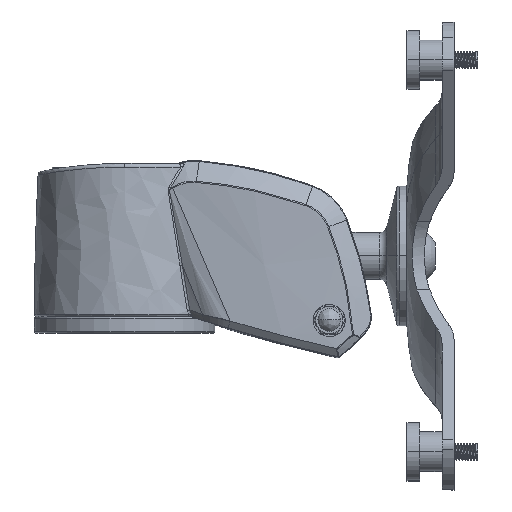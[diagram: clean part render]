
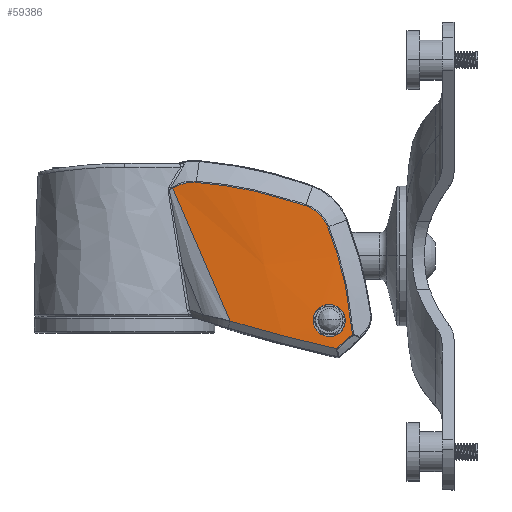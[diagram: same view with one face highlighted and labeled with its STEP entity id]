
A CAD part, top view. The second image highlights one B-rep face of the part: STEP entity #59386.
In plain terms, the highlighted conical face has half-angle 1.5 degrees and reference radius 199.268 mm.
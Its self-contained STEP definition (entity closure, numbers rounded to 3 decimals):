
#51667=CARTESIAN_POINT('',(-20.747,-31.955,
-44.695));
#51774=CARTESIAN_POINT('',(-20.702,-31.414,
-46.249));
#51775=CARTESIAN_POINT('',(-20.718,-31.598,
-45.732));
#51776=CARTESIAN_POINT('',(-20.734,-31.779,
-45.214));
#51777=CARTESIAN_POINT('',(-20.747,-31.955,
-44.695));
#51779=CARTESIAN_POINT('',(-20.59,-25.992,
-51.866));
#51780=CARTESIAN_POINT('',(-20.583,-26.491,
-51.673));
#51781=CARTESIAN_POINT('',(-20.577,-27.441,
-51.208));
#51782=CARTESIAN_POINT('',(-20.586,-28.726,
-50.272));
#51783=CARTESIAN_POINT('',(-20.613,-29.857,
-49.104));
#51784=CARTESIAN_POINT('',(-20.652,-30.776,
-47.766));
#51785=CARTESIAN_POINT('',(-20.685,-31.227,
-46.772));
#51786=CARTESIAN_POINT('',(-20.702,-31.414,
-46.249));
#51788=CARTESIAN_POINT('',(-21.254,1.355,
-58.159));
#51789=CARTESIAN_POINT('',(-21.172,-1.002,
-57.965));
#51790=CARTESIAN_POINT('',(-21.02,-5.688,
-57.412));
#51791=CARTESIAN_POINT('',(-20.832,-12.647,
-56.073));
#51792=CARTESIAN_POINT('',(-20.69,-19.436,
-54.236));
#51793=CARTESIAN_POINT('',(-20.62,-23.84,
-52.7));
#51794=CARTESIAN_POINT('',(-20.59,-25.992,
-51.866));
#51796=CARTESIAN_POINT('',(-21.645,4.993,
-53.942));
#51797=CARTESIAN_POINT('',(-21.533,3.899,
-55.447));
#51798=CARTESIAN_POINT('',(-21.401,2.681,
-56.86));
#51799=CARTESIAN_POINT('',(-21.254,1.355,
-58.159));
#51801=CARTESIAN_POINT('',(-21.084,-2.042,
-26.872));
#51802=CARTESIAN_POINT('',(-21.226,-1.5,
-28.653));
#51803=CARTESIAN_POINT('',(-21.485,-0.43,
-32.246));
#51804=CARTESIAN_POINT('',(-21.722,1.058,
-37.652));
#51805=CARTESIAN_POINT('',(-21.836,2.465,
-43.089));
#51806=CARTESIAN_POINT('',(-21.818,3.779,
-48.529));
#51807=CARTESIAN_POINT('',(-21.717,4.598,
-52.14));
#51808=CARTESIAN_POINT('',(-21.645,4.993,
-53.942));
#51810=CARTESIAN_POINT('',(-19.416,-35.939,
-12.297));
#51811=CARTESIAN_POINT('',(-19.726,-30.317,
-14.759));
#51812=CARTESIAN_POINT('',(-20.316,-19.085,
-19.632));
#51813=CARTESIAN_POINT('',(-20.834,-7.695,
-24.479));
#51814=CARTESIAN_POINT('',(-21.084,-2.042,
-26.872));
#51816=CARTESIAN_POINT('',(-20.747,-31.955,
-44.695));
#51817=CARTESIAN_POINT('',(-20.763,-32.15,
-44.121));
#51818=CARTESIAN_POINT('',(-20.803,-32.719,
-42.395));
#51819=CARTESIAN_POINT('',(-20.856,-33.949,
-38.333));
#51820=CARTESIAN_POINT('',(-20.809,-35.413,
-32.443));
#51821=CARTESIAN_POINT('',(-20.581,-36.473,
-26.482));
#51822=CARTESIAN_POINT('',(-20.321,-37.004,
-22.288));
#51823=CARTESIAN_POINT('',(-20.146,-37.243,
-19.941));
#51824=CARTESIAN_POINT('',(-20.052,-37.343,
-18.794));
#51825=CARTESIAN_POINT('',(-20.005,-37.387,
-18.248));
#51827=CARTESIAN_POINT('',(-21.645,1.871,
-51.418));
#51828=CARTESIAN_POINT('',(-21.654,1.815,
-51.138));
#51829=CARTESIAN_POINT('',(-21.668,1.645,
-50.587));
#51830=CARTESIAN_POINT('',(-21.679,1.224,
-49.834));
#51831=CARTESIAN_POINT('',(-21.68,0.654,
-49.182));
#51832=CARTESIAN_POINT('',(-21.672,-0.034,
-48.666));
#51833=CARTESIAN_POINT('',(-21.657,-0.822,
-48.301));
#51834=CARTESIAN_POINT('',(-21.635,-1.659,
-48.11));
#51835=CARTESIAN_POINT('',(-21.608,-2.528,
-48.097));
#51836=CARTESIAN_POINT('',(-21.577,-3.369,
-48.262));
#51837=CARTESIAN_POINT('',(-21.541,-4.168,
-48.604));
#51838=CARTESIAN_POINT('',(-21.502,-4.868,
-49.097));
#51839=CARTESIAN_POINT('',(-21.46,-5.457,
-49.733));
#51840=CARTESIAN_POINT('',(-21.416,-5.897,
-50.47));
#51841=CARTESIAN_POINT('',(-21.37,-6.175,
-51.29));
#51842=CARTESIAN_POINT('',(-21.326,-6.276,
-52.145));
#51843=CARTESIAN_POINT('',(-21.298,-6.224,
-52.718));
#51844=CARTESIAN_POINT('',(-21.285,-6.168,
-52.999));
#51846=CARTESIAN_POINT('',(-21.285,-6.168,
-52.999));
#51847=CARTESIAN_POINT('',(-21.272,-6.112,
-53.279));
#51848=CARTESIAN_POINT('',(-21.247,-5.941,
-53.829));
#51849=CARTESIAN_POINT('',(-21.219,-5.52,
-54.583));
#51850=CARTESIAN_POINT('',(-21.2,-4.948,
-55.234));
#51851=CARTESIAN_POINT('',(-21.194,-4.26,
-55.75));
#51852=CARTESIAN_POINT('',(-21.201,-3.472,
-56.115));
#51853=CARTESIAN_POINT('',(-21.221,-2.636,
-56.306));
#51854=CARTESIAN_POINT('',(-21.255,-1.767,
-56.32));
#51855=CARTESIAN_POINT('',(-21.299,-0.927,
-56.155));
#51856=CARTESIAN_POINT('',(-21.352,-0.129,
-55.814));
#51857=CARTESIAN_POINT('',(-21.408,0.571,
-55.321));
#51858=CARTESIAN_POINT('',(-21.467,1.16,
-54.685));
#51859=CARTESIAN_POINT('',(-21.522,1.599,
-53.948));
#51860=CARTESIAN_POINT('',(-21.573,1.878,
-53.128));
#51861=CARTESIAN_POINT('',(-21.615,1.979,
-52.273));
#51862=CARTESIAN_POINT('',(-21.636,1.927,
-51.699));
#51863=CARTESIAN_POINT('',(-21.645,1.871,
-51.418));
#51865=CARTESIAN_POINT('',(-19.416,-35.939,
-12.297));
#51866=CARTESIAN_POINT('',(-19.469,-36.225,
-12.767));
#51867=CARTESIAN_POINT('',(-19.574,-36.713,
-13.723));
#51868=CARTESIAN_POINT('',(-19.727,-37.194,
-15.22));
#51869=CARTESIAN_POINT('',(-19.873,-37.437,
-16.752));
#51870=CARTESIAN_POINT('',(-19.962,-37.43,
-17.75));
#51871=CARTESIAN_POINT('',(-20.005,-37.387,
-18.248));
#53552=VERTEX_POINT('',#51810);
#53553=VERTEX_POINT('',#51814);
#53605=VERTEX_POINT('',#51796);
#53606=VERTEX_POINT('',#51799);
#53618=VERTEX_POINT('',#51871);
#53647=VERTEX_POINT('',#51794);
#53686=VERTEX_POINT('',#51786);
#53949=VERTEX_POINT('',#51667);
#53959=VERTEX_POINT('',#51827);
#53960=VERTEX_POINT('',#51844);
#59364=CARTESIAN_POINT('',(177.972,-16.894,
-38.739));
#59365=DIRECTION('',(0.,0.982,-0.191));
#59366=DIRECTION('',(0.,-0.191,-0.982));
#59367=AXIS2_PLACEMENT_3D('',#59364,#59365,#59366);
#59368=CONICAL_SURFACE('',#59367,199.268,1.5);
#59369=ORIENTED_EDGE('',*,*,#59162,.F.);
#59370=ORIENTED_EDGE('',*,*,#59215,.F.);
#59371=ORIENTED_EDGE('',*,*,#59254,.F.);
#59372=ORIENTED_EDGE('',*,*,#59296,.F.);
#59373=ORIENTED_EDGE('',*,*,#59355,.F.);
#59374=ORIENTED_EDGE('',*,*,#58861,.F.);
#59376=ORIENTED_EDGE('',*,*,#59375,.T.);
#59377=ORIENTED_EDGE('',*,*,#59133,.F.);
#59378=EDGE_LOOP('',(#59369,#59370,#59371,#59372,#59373,#59374,#59376,#59377));
#59379=FACE_OUTER_BOUND('',#59378,.F.);
#59381=ORIENTED_EDGE('',*,*,#59380,.F.);
#59383=ORIENTED_EDGE('',*,*,#59382,.F.);
#59384=EDGE_LOOP('',(#59381,#59383));
#59385=FACE_BOUND('',#59384,.F.);
#59386=ADVANCED_FACE('',(#59379,#59385),#59368,.T.);
#51778=B_SPLINE_CURVE_WITH_KNOTS('',3,(#51774,#51775,#51776,#51777),
.UNSPECIFIED.,.F.,.F.,(4,4),(0.,1.),.UNSPECIFIED.);
#51787=B_SPLINE_CURVE_WITH_KNOTS('',3,(#51779,#51780,#51781,#51782,#51783,
#51784,#51785,#51786),.UNSPECIFIED.,.F.,.F.,(4,1,1,1,1,4),(0.,0.2,0.4,
0.6,0.8,1.),.UNSPECIFIED.);
#51795=B_SPLINE_CURVE_WITH_KNOTS('',3,(#51788,#51789,#51790,#51791,#51792,
#51793,#51794),.UNSPECIFIED.,.F.,.F.,(4,1,1,1,4),(0.,0.252,
0.503,0.755,1.),.UNSPECIFIED.);
#51800=B_SPLINE_CURVE_WITH_KNOTS('',3,(#51796,#51797,#51798,#51799),
.UNSPECIFIED.,.F.,.F.,(4,4),(0.,1.),.UNSPECIFIED.);
#51809=B_SPLINE_CURVE_WITH_KNOTS('',3,(#51801,#51802,#51803,#51804,#51805,
#51806,#51807,#51808),.UNSPECIFIED.,.F.,.F.,(4,1,1,1,1,4),(0.,0.2,0.4,
0.6,0.8,1.),.UNSPECIFIED.);
#51815=B_SPLINE_CURVE_WITH_KNOTS('',3,(#51810,#51811,#51812,#51813,#51814),
.UNSPECIFIED.,.F.,.F.,(4,1,4),(0.,0.5,1.),.UNSPECIFIED.);
#51826=B_SPLINE_CURVE_WITH_KNOTS('',3,(#51816,#51817,#51818,#51819,#51820,
#51821,#51822,#51823,#51824,#51825),.UNSPECIFIED.,.F.,.F.,(4,1,1,1,1,1,1,4),(
0.,0.067,0.201,0.47,0.738,
0.872,0.939,1.),.UNSPECIFIED.);
#51845=B_SPLINE_CURVE_WITH_KNOTS('',3,(#51827,#51828,#51829,#51830,#51831,
#51832,#51833,#51834,#51835,#51836,#51837,#51838,#51839,#51840,#51841,#51842,
#51843,#51844),.UNSPECIFIED.,.F.,.F.,(4,1,1,1,1,1,1,1,1,1,1,1,1,1,1,4),(0.,
0.067,0.133,0.2,0.267,0.333,
0.4,0.467,0.533,0.6,0.667,
0.733,0.8,0.867,0.933,1.),
.UNSPECIFIED.);
#51864=B_SPLINE_CURVE_WITH_KNOTS('',3,(#51846,#51847,#51848,#51849,#51850,
#51851,#51852,#51853,#51854,#51855,#51856,#51857,#51858,#51859,#51860,#51861,
#51862,#51863),.UNSPECIFIED.,.F.,.F.,(4,1,1,1,1,1,1,1,1,1,1,1,1,1,1,4),(0.,
0.067,0.133,0.2,0.267,0.333,
0.4,0.467,0.533,0.6,0.667,
0.733,0.8,0.867,0.933,1.),
.UNSPECIFIED.);
#51872=B_SPLINE_CURVE_WITH_KNOTS('',3,(#51865,#51866,#51867,#51868,#51869,
#51870,#51871),.UNSPECIFIED.,.F.,.F.,(4,1,1,1,4),(0.,0.25,0.5,0.75,
1.),.UNSPECIFIED.);
#58861=EDGE_CURVE('',#53552,#53553,#51815,.T.);
#59133=EDGE_CURVE('',#53949,#53618,#51826,.T.);
#59162=EDGE_CURVE('',#53686,#53949,#51778,.T.);
#59215=EDGE_CURVE('',#53647,#53686,#51787,.T.);
#59254=EDGE_CURVE('',#53606,#53647,#51795,.T.);
#59296=EDGE_CURVE('',#53605,#53606,#51800,.T.);
#59355=EDGE_CURVE('',#53553,#53605,#51809,.T.);
#59375=EDGE_CURVE('',#53552,#53618,#51872,.T.);
#59380=EDGE_CURVE('',#53959,#53960,#51845,.T.);
#59382=EDGE_CURVE('',#53960,#53959,#51864,.T.);
